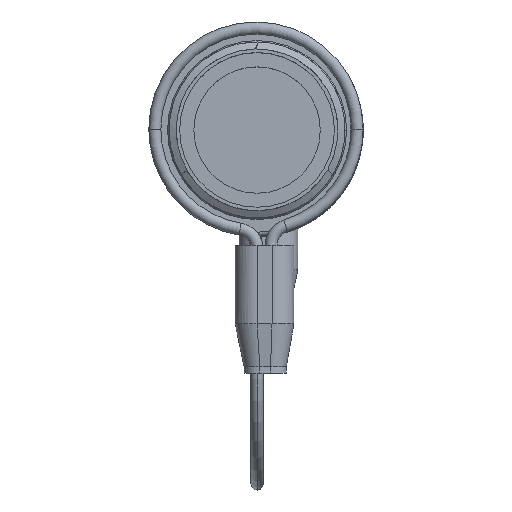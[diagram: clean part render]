
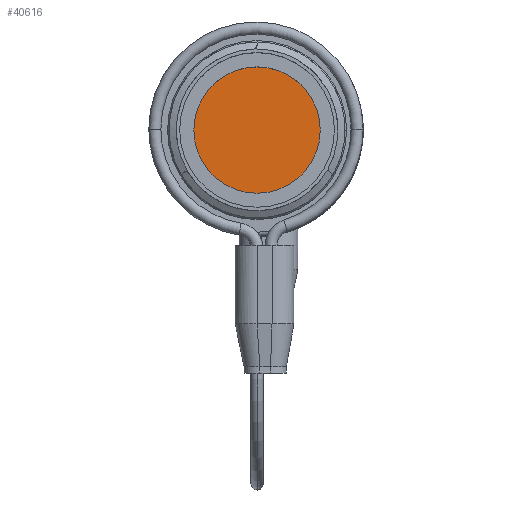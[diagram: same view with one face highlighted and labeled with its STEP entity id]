
A CAD part, top view. The second image highlights one B-rep face of the part: STEP entity #40616.
In plain terms, the highlighted planar face has unit normal (0, 0, 1) as drawn and (0, 0, -1) by its records, which use the part's own axes.
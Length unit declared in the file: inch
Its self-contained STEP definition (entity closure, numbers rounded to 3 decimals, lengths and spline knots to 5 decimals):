
#1189 = DIRECTION ( 'NONE',  ( -1., 0., 0. ) ) ;
#4988 = AXIS2_PLACEMENT_3D ( 'NONE', #36081, #26451, #39486 ) ;
#5407 = AXIS2_PLACEMENT_3D ( 'NONE', #26263, #29912, #10669 ) ;
#10459 = PLANE ( 'NONE',  #5407 ) ;
#10669 = DIRECTION ( 'NONE',  ( -1., 0., 0. ) ) ;
#14542 = CIRCLE ( 'NONE', #4988, 0.3125 ) ;
#18398 = EDGE_CURVE ( 'NONE', #20321, #41680, #28472, .T. ) ;
#19958 = ORIENTED_EDGE ( 'NONE', *, *, #18398, .T. ) ;
#20321 = VERTEX_POINT ( 'NONE', #39316 ) ;
#21985 = EDGE_LOOP ( 'NONE', ( #19958, #29826 ) ) ;
#23794 = CARTESIAN_POINT ( 'NONE',  ( 0., 0., -0.38 ) ) ;
#24661 = CARTESIAN_POINT ( 'NONE',  ( 0.3125, 0., -0.38 ) ) ;
#26263 = CARTESIAN_POINT ( 'NONE',  ( 0., 0.3125, -0.38 ) ) ;
#26451 = DIRECTION ( 'NONE',  ( 0., 0., -1. ) ) ;
#28331 = EDGE_CURVE ( 'NONE', #41680, #20321, #14542, .T. ) ;
#28472 = CIRCLE ( 'NONE', #42090, 0.3125 ) ;
#29826 = ORIENTED_EDGE ( 'NONE', *, *, #28331, .T. ) ;
#29912 = DIRECTION ( 'NONE',  ( 0., 0., -1. ) ) ;
#32851 = DIRECTION ( 'NONE',  ( 0., 0., -1. ) ) ;
#33107 = FACE_OUTER_BOUND ( 'NONE', #21985, .T. ) ;
#36081 = CARTESIAN_POINT ( 'NONE',  ( 0., 0., -0.38 ) ) ;
#39316 = CARTESIAN_POINT ( 'NONE',  ( -0.3125, 0., -0.38 ) ) ;
#39486 = DIRECTION ( 'NONE',  ( -1., 0., 0. ) ) ;
#40616 = ADVANCED_FACE ( 'NONE', ( #33107 ), #10459, .T. ) ;
#41680 = VERTEX_POINT ( 'NONE', #24661 ) ;
#42090 = AXIS2_PLACEMENT_3D ( 'NONE', #23794, #32851, #1189 ) ;
